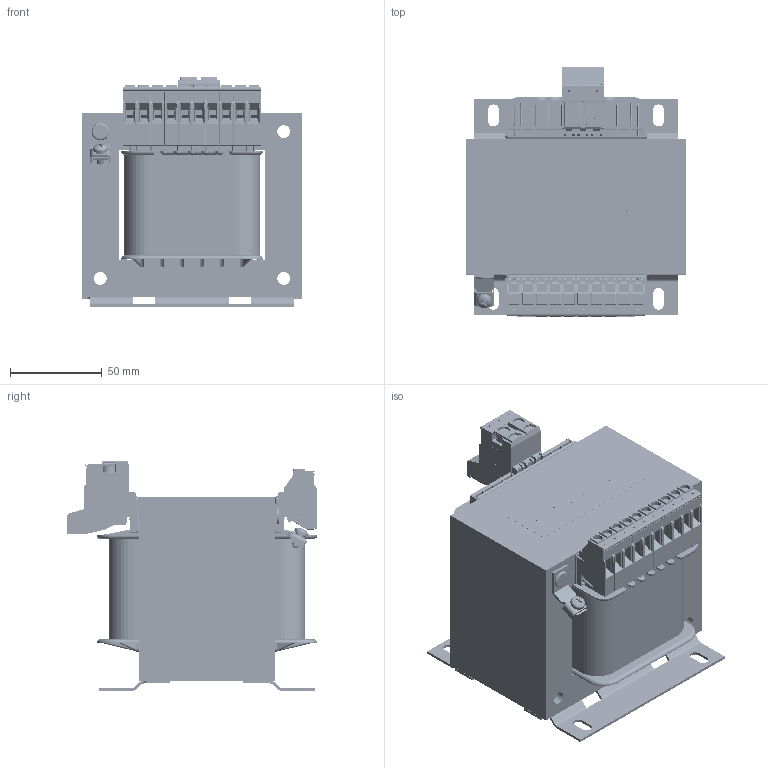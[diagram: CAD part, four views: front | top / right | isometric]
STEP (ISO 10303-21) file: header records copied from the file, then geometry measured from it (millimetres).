
FILE_DESCRIPTION(/* description */ (''),/* implementation_level */ '2;1');
FILE_NAME(/* name */ 'UTI0,5-24.stp',/* time_stamp */ '2023-09-19T12:48:18+02:00',/* author */ ('EnneJ'),/* organization */ (''),/* preprocessor_version */ 'ST-DEVELOPER v19.2',/* originating_system */ 'Autodesk Inventor 2023',/* authorisation */ '');
FILE_SCHEMA (('AUTOMOTIVE_DESIGN { 1 0 10303 214 3 1 1 }'));
Products named in the file (13): X0001 STZ 001; Erdung 45°; Bauteil2; erd 90 001; M4-8; DIN7337 A4,8x16; Bauteil28; 1; Norm (DIN); FUP_EI120; 1222_TKS_4_1; 17033_TKS_10_2; Leistungsschild 78x28
Assembly tree (22 placements, depth 3):
  X0001 STZ 001
    Erdung 45°
      Bauteil2
      erd 90 001
      M4-8
    DIN7337 A4,8x16
    Bauteil28
    1
    Norm (DIN)
    FUP_EI120  x2
    1222_TKS_4_1  x10
    17033_TKS_10_2
    Leistungsschild 78x28
Bounding box: 120.3 x 136.3 x 125.2 mm (x, y, z)
Volume: 1045543 mm3; surface area: 253411.8 mm2
Topology: 21 solids, 21 shells, 16620 faces, 46644 edges, 30544 vertices
Faces by surface type: plane 14121, cylinder 1649, bspline 515, torus 302, sphere 21, cone 12
Full cylindrical faces by diameter (mm): 3.242 x1, 3.621 x1, 4 x2, 4.5 x1, 4.8 x1, 5 x1, 7 x4, 9.5 x1
Entity records: 149472 total; most frequent: CARTESIAN_POINT 33119, ORIENTED_EDGE 25162, DIRECTION 22390, EDGE_CURVE 12581, LINE 10888, VECTOR 10888, VERTEX_POINT 8227, AXIS2_PLACEMENT_3D 5751
